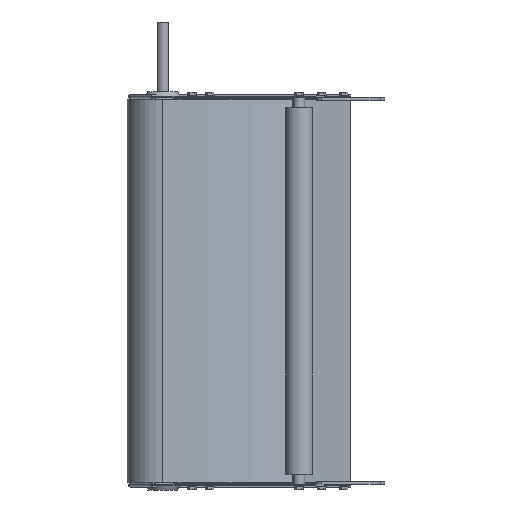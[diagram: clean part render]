
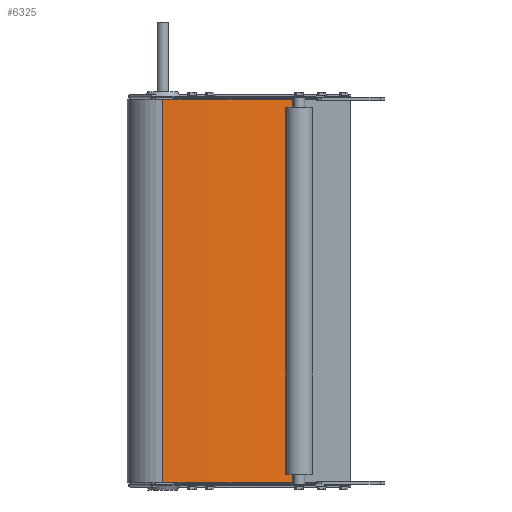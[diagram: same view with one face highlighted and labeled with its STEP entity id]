
A CAD part, front view. The second image highlights one B-rep face of the part: STEP entity #6325.
In plain terms, the highlighted cylindrical face has radius 508.8 mm (diameter 1017.6 mm), a partial arc.
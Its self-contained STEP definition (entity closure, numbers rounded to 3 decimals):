
#579 = LINE ( 'NONE', #7241, #6265 ) ;
#586 = CARTESIAN_POINT ( 'NONE',  ( 64.602, 381.399, -342.9 ) ) ;
#1073 = ORIENTED_EDGE ( 'NONE', *, *, #4826, .F. ) ;
#1532 = VERTEX_POINT ( 'NONE', #4128 ) ;
#1726 = CIRCLE ( 'NONE', #7465, 508.8 ) ;
#2074 = VERTEX_POINT ( 'NONE', #8724 ) ;
#2118 = CARTESIAN_POINT ( 'NONE',  ( 63.571, -127.4, -342.9 ) ) ;
#2306 = ORIENTED_EDGE ( 'NONE', *, *, #6107, .T. ) ;
#2680 = AXIS2_PLACEMENT_3D ( 'NONE', #2698, #6495, #9358 ) ;
#2698 = CARTESIAN_POINT ( 'NONE',  ( 64.602, 381.399, -342.9 ) ) ;
#3126 = VECTOR ( 'NONE', #3715, 1000. ) ;
#3291 = DIRECTION ( 'NONE',  ( 0., 0., 1. ) ) ;
#3348 = EDGE_CURVE ( 'NONE', #1532, #6557, #1726, .T. ) ;
#3682 = CARTESIAN_POINT ( 'NONE',  ( 296.602, -71.429, -342.9 ) ) ;
#3715 = DIRECTION ( 'NONE',  ( 0., 0., 1. ) ) ;
#3819 = LINE ( 'NONE', #2118, #3126 ) ;
#4128 = CARTESIAN_POINT ( 'NONE',  ( 63.571, -127.4, 342.9 ) ) ;
#4379 = VERTEX_POINT ( 'NONE', #3682 ) ;
#4659 = DIRECTION ( 'NONE',  ( -1., 0., 0. ) ) ;
#4734 = CIRCLE ( 'NONE', #7211, 508.8 ) ;
#4826 = EDGE_CURVE ( 'NONE', #2074, #1532, #3819, .T. ) ;
#5245 = DIRECTION ( 'NONE',  ( -1., 0., 0. ) ) ;
#5396 = CARTESIAN_POINT ( 'NONE',  ( 64.602, 381.399, 342.9 ) ) ;
#6016 = DIRECTION ( 'NONE',  ( 0., 0., 1. ) ) ;
#6107 = EDGE_CURVE ( 'NONE', #4379, #6557, #579, .T. ) ;
#6265 = VECTOR ( 'NONE', #6016, 1000. ) ;
#6325 = ADVANCED_FACE ( 'NONE', ( #7171 ), #6401, .T. ) ;
#6401 = CYLINDRICAL_SURFACE ( 'NONE', #2680, 508.8 ) ;
#6495 = DIRECTION ( 'NONE',  ( 0., 0., 1. ) ) ;
#6557 = VERTEX_POINT ( 'NONE', #7054 ) ;
#7054 = CARTESIAN_POINT ( 'NONE',  ( 296.602, -71.429, 342.9 ) ) ;
#7171 = FACE_OUTER_BOUND ( 'NONE', #8689, .T. ) ;
#7211 = AXIS2_PLACEMENT_3D ( 'NONE', #586, #8937, #5245 ) ;
#7241 = CARTESIAN_POINT ( 'NONE',  ( 296.602, -71.429, -342.9 ) ) ;
#7465 = AXIS2_PLACEMENT_3D ( 'NONE', #5396, #3291, #4659 ) ;
#7570 = ORIENTED_EDGE ( 'NONE', *, *, #7685, .T. ) ;
#7685 = EDGE_CURVE ( 'NONE', #2074, #4379, #4734, .T. ) ;
#7942 = ORIENTED_EDGE ( 'NONE', *, *, #3348, .F. ) ;
#8689 = EDGE_LOOP ( 'NONE', ( #7942, #1073, #7570, #2306 ) ) ;
#8724 = CARTESIAN_POINT ( 'NONE',  ( 63.571, -127.4, -342.9 ) ) ;
#8937 = DIRECTION ( 'NONE',  ( 0., 0., 1. ) ) ;
#9358 = DIRECTION ( 'NONE',  ( 1., 0., 0. ) ) ;
